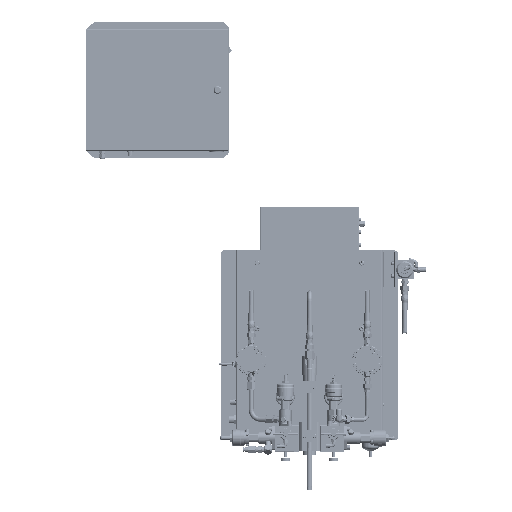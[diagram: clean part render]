
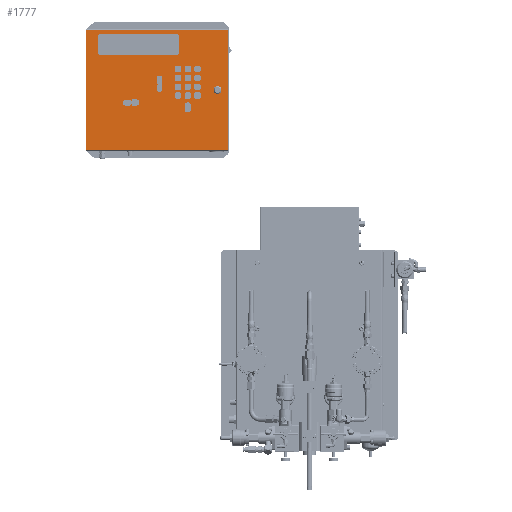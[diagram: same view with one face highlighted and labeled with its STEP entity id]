
A CAD part, top view. The second image highlights one B-rep face of the part: STEP entity #1777.
In plain terms, the highlighted planar face has unit normal (0, 0, 1).
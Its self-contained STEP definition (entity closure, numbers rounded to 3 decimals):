
#1546=DIRECTION('',(-1.,0.,0.));
#1547=VECTOR('',#1546,14.006);
#1548=CARTESIAN_POINT('',(11.925,-5.075,6.58));
#1549=LINE('',#1548,#1547);
#1550=DIRECTION('',(0.,1.,0.));
#1551=VECTOR('',#1550,11.85);
#1552=CARTESIAN_POINT('',(11.925,-16.925,6.58));
#1553=LINE('',#1552,#1551);
#1581=DIRECTION('',(1.,0.,0.));
#1582=VECTOR('',#1581,14.006);
#1583=CARTESIAN_POINT('',(-2.081,-16.925,6.58));
#1584=LINE('',#1583,#1582);
#1639=DIRECTION('',(0.,-1.,0.));
#1640=VECTOR('',#1639,11.85);
#1641=CARTESIAN_POINT('',(-2.081,-5.075,6.58));
#1642=LINE('',#1641,#1640);
#1703=CARTESIAN_POINT('',(-2.081,-5.075,6.58));
#1704=CARTESIAN_POINT('',(-2.081,-16.925,6.58));
#1705=VERTEX_POINT('',#1703);
#1706=VERTEX_POINT('',#1704);
#1707=CARTESIAN_POINT('',(11.925,-16.925,6.58));
#1708=VERTEX_POINT('',#1707);
#1713=CARTESIAN_POINT('',(11.925,-5.075,6.58));
#1714=VERTEX_POINT('',#1713);
#1762=CARTESIAN_POINT('',(4.924,-11.,6.58));
#1763=DIRECTION('',(0.,0.,1.));
#1764=DIRECTION('',(1.,0.,0.));
#1765=AXIS2_PLACEMENT_3D('',#1762,#1763,#1764);
#1766=PLANE('',#1765);
#1768=ORIENTED_EDGE('',*,*,#1767,.F.);
#1770=ORIENTED_EDGE('',*,*,#1769,.F.);
#1772=ORIENTED_EDGE('',*,*,#1771,.F.);
#1774=ORIENTED_EDGE('',*,*,#1773,.F.);
#1775=EDGE_LOOP('',(#1768,#1770,#1772,#1774));
#1776=FACE_OUTER_BOUND('',#1775,.F.);
#1777=ADVANCED_FACE('',(#1776),#1766,.T.);
#1767=EDGE_CURVE('',#1705,#1706,#1642,.T.);
#1769=EDGE_CURVE('',#1714,#1705,#1549,.T.);
#1771=EDGE_CURVE('',#1708,#1714,#1553,.T.);
#1773=EDGE_CURVE('',#1706,#1708,#1584,.T.);
